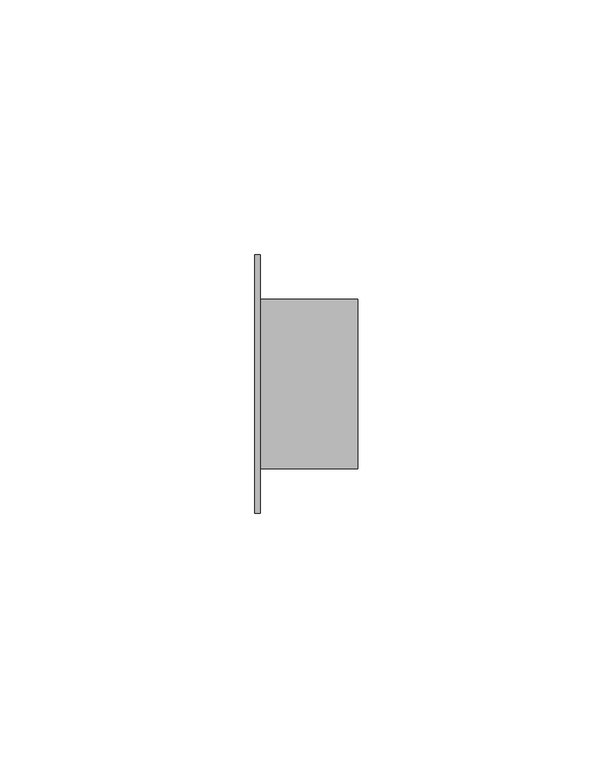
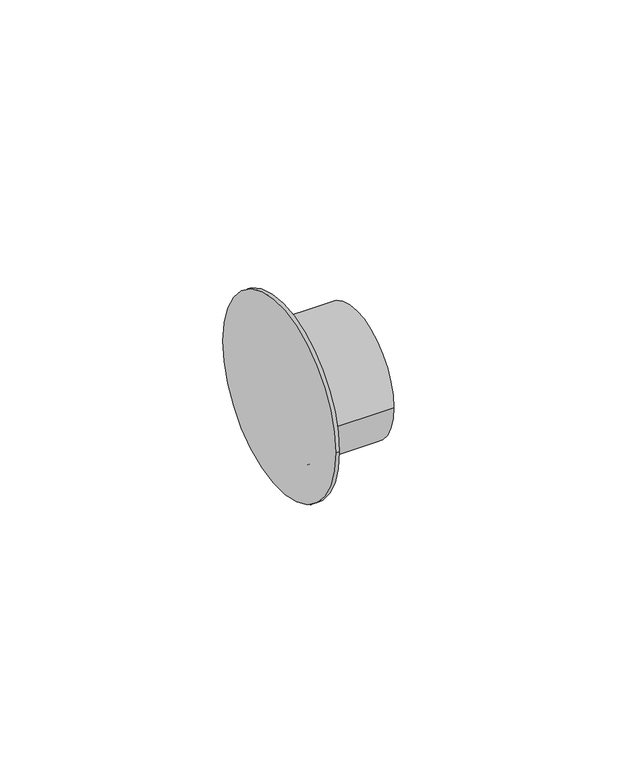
"""IFC4 building model written with IfcOpenShell, lengths in millimetres: pipe fitting geometry, Bucha de redução reta - Soldada - CU : Padrão."""

from ifc_helpers import new_model, si_unit, frame, origin, place, context, project, spatial, circle_curve, source, transform, mapped, element, save
from ifc_brep_helpers import plane_surface, cylinder_surface, advanced_brep


def pipe_fitting_3ec2dfac(model_context):
    return source(origin(), model_context, "Body", "AdvancedBrep", [
        advanced_brep(
        [(0.0, -25.3, 0.0), (0.0, 25.3, 0.0), (1.0, -25.3, 0.0), (1.0, 25.3, 0.0), (1.0, -16.5925, 0.0), (1.0, 16.5925, 0.0), (20.1225, -16.5925, 0.0), (20.1225, 16.5925, 0.0)],
        [
            (0, 1, circle_curve(frame((0.0, 0.0, 0.0), z_axis=(-1.0, 0.0, 0.0), x_axis=(0.0, 1.0, 0.0)), 25.3)),
            (1, 0, circle_curve(frame((0.0, 0.0, 0.0), z_axis=(-1.0, 0.0, 0.0), x_axis=(0.0, 1.0, 0.0)), 25.3)),
            (2, 3, circle_curve(frame((1.0, 0.0, 0.0), z_axis=(1.0, 0.0, 0.0), x_axis=(0.0, 1.0, 0.0)), 25.3)),
            (3, 2, circle_curve(frame((1.0, 0.0, 0.0), z_axis=(1.0, 0.0, 0.0), x_axis=(0.0, 1.0, 0.0)), 25.3)),
            (4, 5, circle_curve(frame((1.0, 0.0, 0.0), z_axis=(-1.0, 0.0, 0.0), x_axis=(0.0, 1.0, 0.0)), 16.5925)),
            (5, 4, circle_curve(frame((1.0, 0.0, 0.0), z_axis=(-1.0, 0.0, 0.0), x_axis=(0.0, 1.0, 0.0)), 16.5925)),
            (0, 2),
            (3, 1),
            (6, 7, circle_curve(frame((20.1225, 0.0, 0.0), z_axis=(1.0, 0.0, 0.0), x_axis=(0.0, 1.0, 0.0)), 16.5925)),
            (7, 6, circle_curve(frame((20.1225, 0.0, 0.0), z_axis=(1.0, 0.0, 0.0), x_axis=(0.0, 1.0, 0.0)), 16.5925)),
            (7, 5),
            (4, 6),
        ],
        [
            plane_surface(frame((0.0, 0.0, 0.0), z_axis=(-1.0, 0.0, 0.0), x_axis=(0.0, 0.0, 1.0))),
            plane_surface(frame((1.0, 0.0, 0.0), z_axis=(1.0, 0.0, 0.0), x_axis=(0.0, 0.0, 1.0))),
            cylinder_surface(frame((0.0, 0.0, 0.0), z_axis=(-1.0, 0.0, 0.0), x_axis=(0.0, 1.0, 0.0)), 25.3),
            plane_surface(frame((20.1225, 0.0, 0.0), z_axis=(1.0, 0.0, 0.0), x_axis=(0.0, 0.0, 1.0))),
            cylinder_surface(frame((1.0, 0.0, 0.0), z_axis=(-1.0, 0.0, 0.0), x_axis=(0.0, 1.0, 0.0)), 16.5925),
        ],
        [
            (0, [[1, 2]]),
            (1, [[3, 4], [5, 6]]),
            (2, [[-1, 7, -4, 8]]),
            (2, [[-2, -8, -3, -7]]),
            (3, [[9, 10]]),
            (4, [[-10, 11, -5, 12]]),
            (4, [[-9, -12, -6, -11]]),
        ],
    ),
    ])


if __name__ == "__main__":
    model = new_model("IFC4")
    model_context = context("Model", 3, world=origin())
    ifc_project = project(units=[si_unit("LENGTHUNIT", "METRE", prefix="MILLI")], contexts=[model_context])
    site = spatial("IfcSite", under=ifc_project)
    building = spatial("IfcBuilding", under=site)
    placement = place(None, origin())
    pipe_fitting_shape = pipe_fitting_3ec2dfac(model_context)
    element("IfcPipeFitting", 1, ObjectType="Bucha de redução reta - Soldada - CU : Padrão", at=placement, inside=building, context=model_context, shape_type="MappedRepresentation", body=[
        mapped(pipe_fitting_shape, transform((0.0, 0.0, 0.0), x_axis=(1.0, 0.0, 0.0), y_axis=(0.0, 1.0, 0.0), z_axis=(0.0, 0.0, 1.0))),
    ])
    save(model, "model.ifc")
